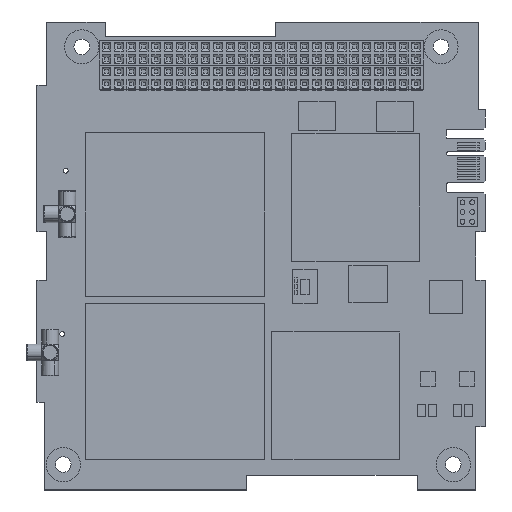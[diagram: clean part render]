
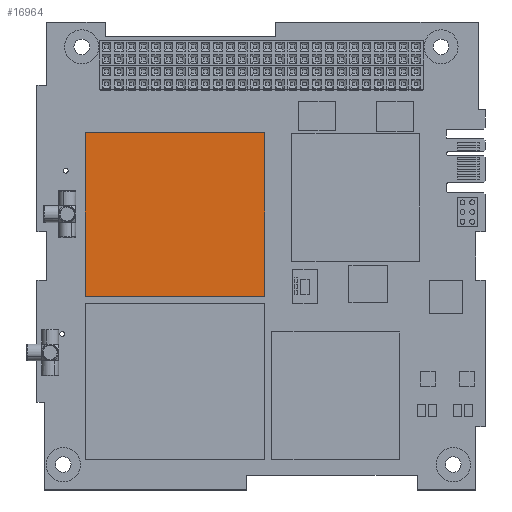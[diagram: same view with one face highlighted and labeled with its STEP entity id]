
A CAD part, top view. The second image highlights one B-rep face of the part: STEP entity #16964.
In plain terms, the highlighted planar face has unit normal (0, 0, 1).
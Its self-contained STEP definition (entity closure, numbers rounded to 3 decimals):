
#4524=DIRECTION('',(0.,1.,0.));
#4525=VECTOR('',#4524,33.6);
#4526=CARTESIAN_POINT('',(-36.1,-8.3,6.7));
#4527=LINE('',#4526,#4525);
#4528=DIRECTION('',(1.,0.,0.));
#4529=VECTOR('',#4528,36.8);
#4530=CARTESIAN_POINT('',(-36.1,25.3,6.7));
#4531=LINE('',#4530,#4529);
#4532=DIRECTION('',(0.,-1.,0.));
#4533=VECTOR('',#4532,33.6);
#4534=CARTESIAN_POINT('',(0.7,25.3,6.7));
#4535=LINE('',#4534,#4533);
#4536=DIRECTION('',(-1.,0.,0.));
#4537=VECTOR('',#4536,36.8);
#4538=CARTESIAN_POINT('',(0.7,-8.3,6.7));
#4539=LINE('',#4538,#4537);
#8216=CARTESIAN_POINT('',(-36.1,25.3,6.7));
#8217=VERTEX_POINT('',#8216);
#8218=CARTESIAN_POINT('',(-36.1,-8.3,6.7));
#8219=VERTEX_POINT('',#8218);
#8220=CARTESIAN_POINT('',(0.7,25.3,6.7));
#8221=VERTEX_POINT('',#8220);
#8222=CARTESIAN_POINT('',(0.7,-8.3,6.7));
#8223=VERTEX_POINT('',#8222);
#16953=CARTESIAN_POINT('',(0.,0.,6.7));
#16954=DIRECTION('',(0.,0.,1.));
#16955=DIRECTION('',(1.,0.,0.));
#16956=AXIS2_PLACEMENT_3D('',#16953,#16954,#16955);
#16957=PLANE('',#16956);
#16958=ORIENTED_EDGE('',*,*,#16857,.T.);
#16959=ORIENTED_EDGE('',*,*,#16884,.T.);
#16960=ORIENTED_EDGE('',*,*,#16910,.T.);
#16961=ORIENTED_EDGE('',*,*,#16935,.T.);
#16962=EDGE_LOOP('',(#16958,#16959,#16960,#16961));
#16963=FACE_OUTER_BOUND('',#16962,.F.);
#16857=EDGE_CURVE('',#8219,#8217,#4527,.T.);
#16884=EDGE_CURVE('',#8217,#8221,#4531,.T.);
#16910=EDGE_CURVE('',#8221,#8223,#4535,.T.);
#16935=EDGE_CURVE('',#8223,#8219,#4539,.T.);
#16964=ADVANCED_FACE('',(#16963),#16957,.T.);
